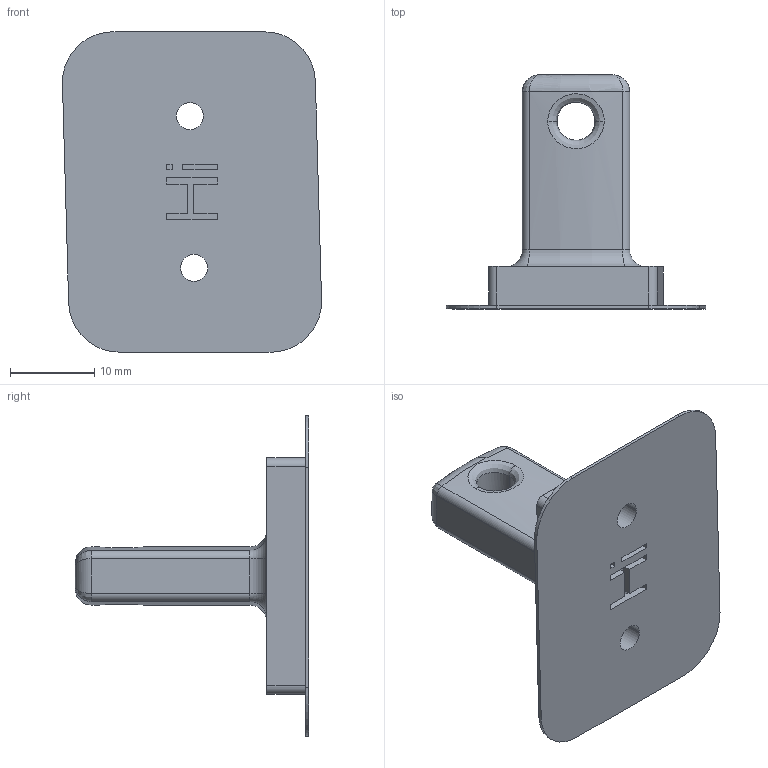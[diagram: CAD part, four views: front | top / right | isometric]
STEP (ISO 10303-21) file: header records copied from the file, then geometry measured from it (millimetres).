
FILE_DESCRIPTION((''),'2;1');
FILE_NAME('0000187323','2024-01-10T08:44:04',('Wyndorps'),(''),'CREO PARAMETRIC BY PTC INC, 2022484','CREO PARAMETRIC BY PTC INC, 2022484','');
FILE_SCHEMA(('CONFIG_CONTROL_DESIGN'));
Length unit declared in the file: millimetre
Products named in the file (1): 0000187323
Bounding box: 30.74 x 27.75 x 38 mm (x, y, z)
Volume: 4675.9 mm3; surface area: 3616.8 mm2
Topology: 1 solids, 1 shells, 81 faces, 194 edges, 120 vertices
Faces by surface type: plane 37, cylinder 24, torus 8, bspline 8, cone 4
Entity records: 3382 total; most frequent: CARTESIAN_POINT 1467, ORIENTED_EDGE 388, DIRECTION 384, EDGE_CURVE 194, AXIS2_PLACEMENT_3D 133, VERTEX_POINT 120, VECTOR 118, LINE 118
